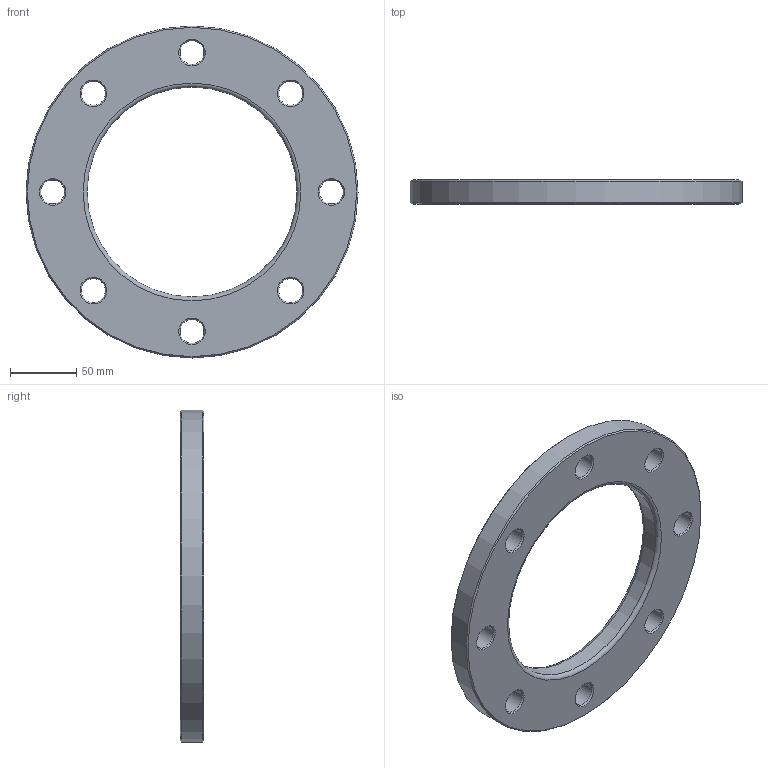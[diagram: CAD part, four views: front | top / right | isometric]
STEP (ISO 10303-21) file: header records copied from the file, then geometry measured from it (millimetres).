
FILE_DESCRIPTION(/* description */ ('Unknown'),/* implementation_level */ '2;1');
FILE_NAME(/* name */ 'FZ140C',/* time_stamp */ '2021-03-15T12:00:04+01:00',/* author */ ('Unknown'),/* organization */ ('Unknown'),/* preprocessor_version */ 'ST-DEVELOPER v16.7',/* originating_system */ 'Solid Edge',/* authorisation */ 'Unknown');
FILE_SCHEMA (('AUTOMOTIVE_DESIGN {1 0 10303 214 3 1 1}'));
Length unit declared in the file: millimetre
Products named in the file (1): FZ140C
Bounding box: 250 x 18 x 250 mm (x, y, z)
Volume: 490823 mm3; surface area: 83402.6 mm2
Topology: 1 solids, 1 shells, 32 faces, 94 edges, 64 vertices
Faces by surface type: cone 18, cylinder 10, plane 2, torus 2
Full cylindrical faces by diameter (mm): 18 x8, 158 x1, 250 x1
Entity records: 790 total; most frequent: DIRECTION 146, CARTESIAN_POINT 113, ORIENTED_EDGE 80, EDGE_LOOP 80, FACE_BOUND 80, AXIS2_PLACEMENT_3D 73, EDGE_CURVE 40, VERTEX_POINT 40
